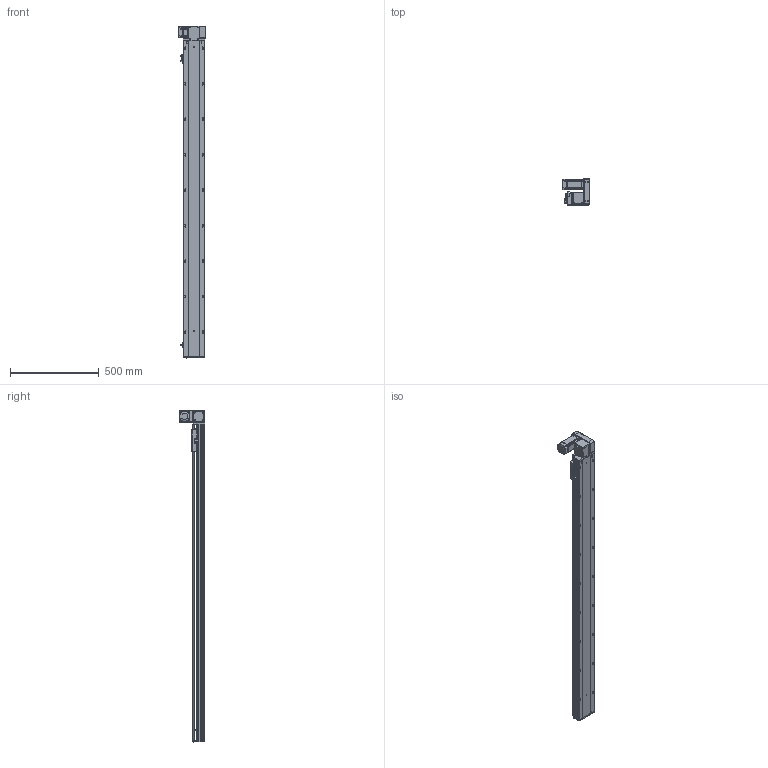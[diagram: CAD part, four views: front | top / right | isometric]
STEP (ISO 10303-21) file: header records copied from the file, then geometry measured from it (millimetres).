
FILE_DESCRIPTION (( 'STEP AP203' ), '1' );
FILE_NAME ('RY120-T-300-UR.SLDASM_1550.step', '2021-03-01T05:57:35', ( '盈信电脑' ), ( '东莞市道滘镇水果街19号' ), 'SwSTEP 2.0', 'SolidWorks 2012', '' );
FILE_SCHEMA (( 'CONFIG_CONTROL_DESIGN' ));
Length unit declared in the file: millimetre
Products named in the file (17): RY120-T-300-UR倰第奻裔啣_1550; RY120-T-300-UR倰第菁釱_1550; RY120-T-300-UR.SLDASM_1550; RY120-T主同步轮轴承压盖; RY120-T萇儂欶; RY120-T蹟翐M4; 15; RY120-T翋肮祭謫裔啣; 滅袉蝶18-10; RY120-T肮祭湍揤踡輸1; RY120-T萇儂假蚾啣; RY120-T翋肮祭盓傅釱; RY120-T肮祭湍揤踡輸2; 覜茼ん672; RY120外置感应片(140共用）; RY120綴裔啣; RY120肮祭湍臏賑輸
Assembly tree (22 placements, depth 2):
  RY120-T-300-UR.SLDASM_1550
    RY120-T-300-UR倰第菁釱_1550
    RY120-T-300-UR倰第奻裔啣_1550
    RY120肮祭湍臏賑輸
    RY120綴裔啣
    覜茼ん672  x3
    RY120外置感应片(140共用）
    RY120-T肮祭湍揤踡輸1
    RY120-T肮祭湍揤踡輸2
    RY120-T翋肮祭盓傅釱
    RY120-T萇儂假蚾啣
    滅袉蝶18-10  x2
    RY120-T翋肮祭謫裔啣
    15
    RY120-T蹟翐M4  x4
    RY120-T萇儂欶
    RY120-T主同步轮轴承压盖
Bounding box: 155.5 x 146 x 1871 mm (x, y, z)
Volume: 4821813.3 mm3; surface area: 1827613.1 mm2
Topology: 23 solids, 23 shells, 2972 faces, 8116 edges, 5184 vertices
Faces by surface type: plane 1432, cylinder 1160, cone 291, bspline 89
Entity records: 95033 total; most frequent: CARTESIAN_POINT 24490, ORIENTED_EDGE 14584, DIRECTION 13786, EDGE_CURVE 7292, VERTEX_POINT 4771, AXIS2_PLACEMENT_3D 4655, LINE 4476, VECTOR 4476
